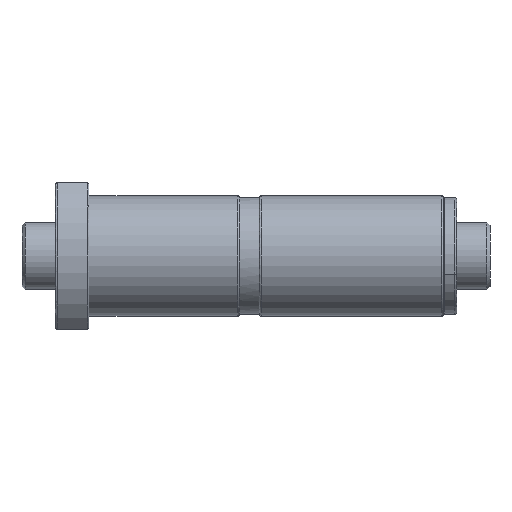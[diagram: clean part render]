
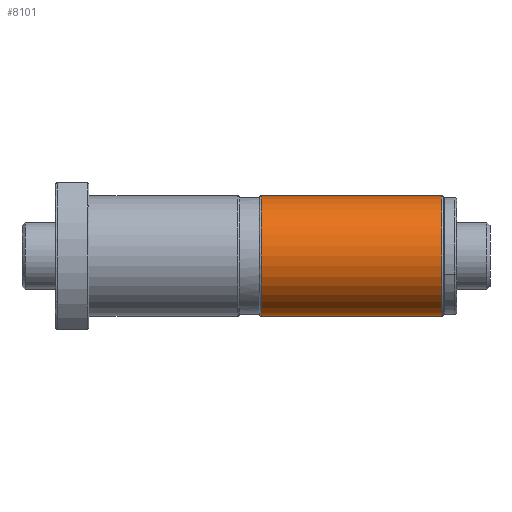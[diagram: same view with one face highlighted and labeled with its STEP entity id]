
A CAD part, front view. The second image highlights one B-rep face of the part: STEP entity #8101.
In plain terms, the highlighted cylindrical face has radius 18 mm (diameter 36 mm), a partial arc.
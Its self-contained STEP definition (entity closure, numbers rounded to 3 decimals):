
#156 = CARTESIAN_POINT ( 'NONE',  ( 116., 0., 18. ) ) ;
#324 = EDGE_CURVE ( 'NONE', #9467, #3223, #603, .T. ) ;
#527 = CARTESIAN_POINT ( 'NONE',  ( 61.5, 0., 0. ) ) ;
#603 = CIRCLE ( 'NONE', #1858, 18. ) ;
#612 = DIRECTION ( 'NONE',  ( -1., 0., 0. ) ) ;
#987 = ORIENTED_EDGE ( 'NONE', *, *, #5728, .F. ) ;
#1021 = DIRECTION ( 'NONE',  ( 0., 0., 1. ) ) ;
#1105 = ORIENTED_EDGE ( 'NONE', *, *, #324, .T. ) ;
#1361 = VERTEX_POINT ( 'NONE', #3395 ) ;
#1858 = AXIS2_PLACEMENT_3D ( 'NONE', #5570, #5471, #8666 ) ;
#2126 = EDGE_LOOP ( 'NONE', ( #987, #1105, #4005, #4207 ) ) ;
#2869 = CYLINDRICAL_SURFACE ( 'NONE', #4159, 18. ) ;
#3212 = DIRECTION ( 'NONE',  ( -1., 0., 0. ) ) ;
#3223 = VERTEX_POINT ( 'NONE', #8857 ) ;
#3395 = CARTESIAN_POINT ( 'NONE',  ( 61.5, 0., -18. ) ) ;
#3413 = DIRECTION ( 'NONE',  ( -1., 0., 0. ) ) ;
#3742 = VECTOR ( 'NONE', #612, 1000. ) ;
#4005 = ORIENTED_EDGE ( 'NONE', *, *, #5442, .T. ) ;
#4083 = VERTEX_POINT ( 'NONE', #6050 ) ;
#4159 = AXIS2_PLACEMENT_3D ( 'NONE', #7301, #3413, #1021 ) ;
#4207 = ORIENTED_EDGE ( 'NONE', *, *, #5917, .T. ) ;
#5095 = DIRECTION ( 'NONE',  ( 0., 0., 1. ) ) ;
#5442 = EDGE_CURVE ( 'NONE', #3223, #4083, #8328, .T. ) ;
#5471 = DIRECTION ( 'NONE',  ( -1., 0., 0. ) ) ;
#5545 = CIRCLE ( 'NONE', #8668, 18. ) ;
#5570 = CARTESIAN_POINT ( 'NONE',  ( 115.5, 0., 0. ) ) ;
#5728 = EDGE_CURVE ( 'NONE', #9467, #1361, #6397, .T. ) ;
#5917 = EDGE_CURVE ( 'NONE', #4083, #1361, #5545, .T. ) ;
#6050 = CARTESIAN_POINT ( 'NONE',  ( 61.5, 0., 18. ) ) ;
#6397 = LINE ( 'NONE', #8946, #3742 ) ;
#6896 = VECTOR ( 'NONE', #3212, 1000. ) ;
#7301 = CARTESIAN_POINT ( 'NONE',  ( 116., 0., 0. ) ) ;
#8101 = ADVANCED_FACE ( 'NONE', ( #8522 ), #2869, .T. ) ;
#8216 = DIRECTION ( 'NONE',  ( 1., 0., 0. ) ) ;
#8328 = LINE ( 'NONE', #156, #6896 ) ;
#8522 = FACE_OUTER_BOUND ( 'NONE', #2126, .T. ) ;
#8666 = DIRECTION ( 'NONE',  ( 0., 0., 1. ) ) ;
#8668 = AXIS2_PLACEMENT_3D ( 'NONE', #527, #8216, #5095 ) ;
#8857 = CARTESIAN_POINT ( 'NONE',  ( 115.5, 0., 18. ) ) ;
#8946 = CARTESIAN_POINT ( 'NONE',  ( 116., 0., -18. ) ) ;
#9467 = VERTEX_POINT ( 'NONE', #9754 ) ;
#9754 = CARTESIAN_POINT ( 'NONE',  ( 115.5, 0., -18. ) ) ;
